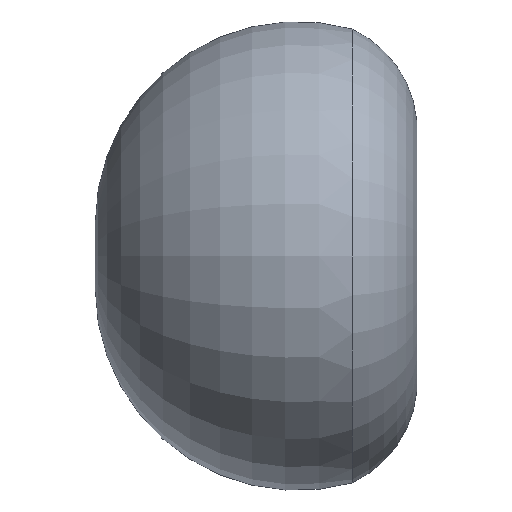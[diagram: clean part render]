
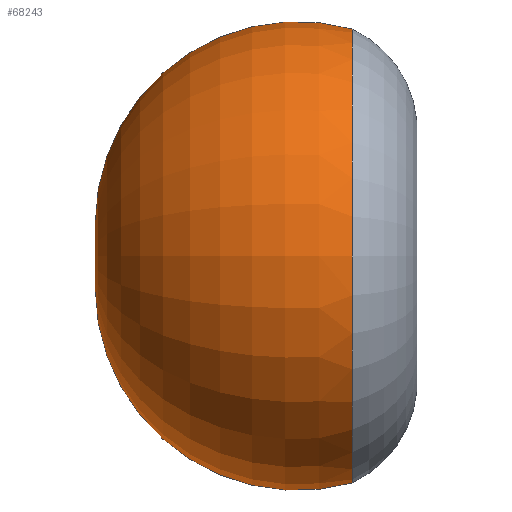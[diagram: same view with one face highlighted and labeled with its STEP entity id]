
A CAD part, left-side view. The second image highlights one B-rep face of the part: STEP entity #68243.
In plain terms, the highlighted toroidal (fillet/blend) face has major radius 400 mm and minor radius 2527.38 mm.
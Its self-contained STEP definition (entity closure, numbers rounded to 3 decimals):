
#66739 = CARTESIAN_POINT ( 'NONE',  ( 0., 3325.521, 0. ) ) ;
#66741 = DIRECTION ( 'NONE',  ( 0., 0., 1. ) ) ;
#66743 = DIRECTION ( 'NONE',  ( -1., 0., 0. ) ) ;
#66745 = CARTESIAN_POINT ( 'NONE',  ( 0., 830., -400. ) ) ;
#66747 = AXIS2_PLACEMENT_3D ( 'NONE', #66745, #66743, #66741 ) ;
#66748 = CIRCLE ( 'NONE', #66747, 2527.376 ) ;
#66812 = CARTESIAN_POINT ( 'NONE',  ( 0., 148.301, -2833.704 ) ) ;
#66875 = DIRECTION ( 'NONE',  ( 0., 0., -1. ) ) ;
#66877 = DIRECTION ( 'NONE',  ( 1., 0., 0. ) ) ;
#66879 = CARTESIAN_POINT ( 'NONE',  ( 0., 830., 400. ) ) ;
#66880 = AXIS2_PLACEMENT_3D ( 'NONE', #66879, #66877, #66875 ) ;
#66881 = CIRCLE ( 'NONE', #66880, 2527.376 ) ;
#66954 = CARTESIAN_POINT ( 'NONE',  ( 0., 148.301, 2833.704 ) ) ;
#66977 = DIRECTION ( 'NONE',  ( 0., 0., -1. ) ) ;
#66979 = DIRECTION ( 'NONE',  ( 0., -1., 0. ) ) ;
#66980 = CARTESIAN_POINT ( 'NONE',  ( 0., 148.301, 0. ) ) ;
#66982 = AXIS2_PLACEMENT_3D ( 'NONE', #66980, #66979, #66977 ) ;
#66984 = CIRCLE ( 'NONE', #66982, 2833.704 ) ;
#66989 = DIRECTION ( 'NONE',  ( 0., 0., -1. ) ) ;
#66991 = DIRECTION ( 'NONE',  ( 0., -1., 0. ) ) ;
#66992 = CARTESIAN_POINT ( 'NONE',  ( 0., 830., 0. ) ) ;
#66994 = AXIS2_PLACEMENT_3D ( 'NONE', #66992, #66991, #66989 ) ;
#67000 = TOROIDAL_SURFACE ( 'NONE', #66994, 400., 2527.376 ) ;
#67002 = FACE_OUTER_BOUND ( 'NONE', #68159, .T. ) ;
#68159 = EDGE_LOOP ( 'NONE', ( #68245, #68246, #68248 ) ) ;
#68172 = EDGE_CURVE ( 'NONE', #68173, #68190, #66748, .T. ) ;
#68173 = VERTEX_POINT ( 'NONE', #66739 ) ;
#68175 = EDGE_CURVE ( 'NONE', #68173, #68191, #66881, .T. ) ;
#68190 = VERTEX_POINT ( 'NONE', #66812 ) ;
#68191 = VERTEX_POINT ( 'NONE', #66954 ) ;
#68243 = ADVANCED_FACE ( 'NONE', ( #67002 ), #67000, .T. ) ;
#68245 = ORIENTED_EDGE ( 'NONE', *, *, #68175, .F. ) ;
#68246 = ORIENTED_EDGE ( 'NONE', *, *, #68172, .T. ) ;
#68248 = ORIENTED_EDGE ( 'NONE', *, *, #68250, .F. ) ;
#68250 = EDGE_CURVE ( 'NONE', #68191, #68190, #66984, .T. ) ;
